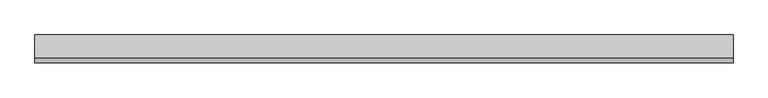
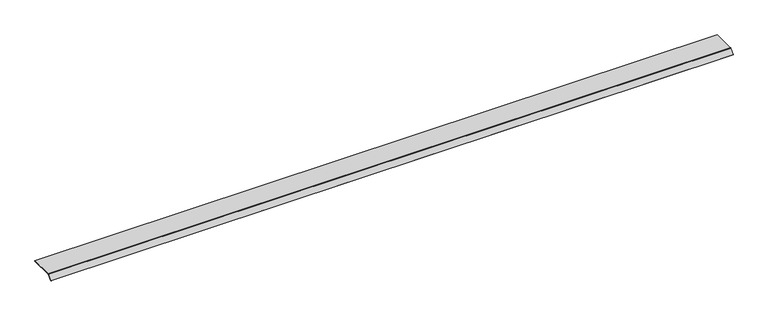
"""IFC4 building model written with IfcOpenShell, lengths in millimetres: proxy geometry, Electrical_Installation_Hager_Blank-Cover-800mm-Single-Sided-Height-40mm : Electrical_Installation_Hager_Blank-Cover-800mm-Single-Sided-Height-40mm."""

from ifc_helpers import new_model, si_unit, point, frame, frame_2d, origin, place, context, project, spatial, polyline, circle_curve, trimmed, segment, composite_curve, outline, extrude, source, transform, mapped, element, save


def electrical_fixtures_fb766957(model_context):
    return source(origin(), model_context, "Body", "SweptSolid", [
        extrude(outline(composite_curve([segment(polyline([(100.0, 25.5), (100.0, 22.5), (-99.8229541, 22.5)]), True, "CONTINUOUS"), segment(trimmed(circle_curve(frame_2d((-99.8229541, 21.0725733)), 1.4274267), [point((-99.8229541, 22.5))], [point((-100.8322972, 22.0819164))], True, "CARTESIAN"), True, "CONTINUOUS"), segment(polyline([(-100.8322972, 22.0819164), (-137.91729, -15.0030764), (-140.0386103, -12.8817561), (-102.8206472, 24.336207)]), True, "CONTINUOUS"), segment(trimmed(circle_curve(frame_2d((-100.0110025, 21.5265623)), 3.9734377), [point((-102.8206472, 24.336207))], [point((-100.0110025, 25.5))], False, "CARTESIAN"), True, "CONTINUOUS"), segment(polyline([(-100.0110025, 25.5), (100.0, 25.5)]), True, "CONTINUOUS")], self_intersect=False)), frame((0.0, 0.0, 0.0), z_axis=(1.0, 0.0, 0.0), x_axis=(0.0, 1.0, 0.0)), (0.0, 0.0, 1.0), 6011.6956759),
    ])


if __name__ == "__main__":
    model = new_model("IFC4")
    model_context = context("Model", 3, world=origin())
    ifc_project = project(units=[si_unit("LENGTHUNIT", "METRE", prefix="MILLI")], contexts=[model_context])
    site = spatial("IfcSite", under=ifc_project)
    building = spatial("IfcBuilding", under=site)
    placement = place(None, origin())
    electrical_fixtures_shape = electrical_fixtures_fb766957(model_context)
    element("IfcBuildingElementProxy", 1, Name="Electrical_Installation_Hager_Blank-Cover-800mm-Single-Sided-Height-40mm : Electrical_Installation_Hager_Blank-Cover-800mm-Single-Sided-Height-40mm", ObjectType="Electrical_Installation_Hager_Blank-Cover-800mm-Single-Sided-Height-40mm : Electrical_Installation_Hager_Blank-Cover-800mm-Single-Sided-Height-40mm", at=placement, inside=building, context=model_context, shape_type="MappedRepresentation", body=[
        mapped(electrical_fixtures_shape, transform((0.0, 0.0, 0.0), x_axis=(1.0, 0.0, 0.0), y_axis=(0.0, 1.0, 0.0), z_axis=(0.0, 0.0, 1.0))),
    ])
    save(model, "model.ifc")
